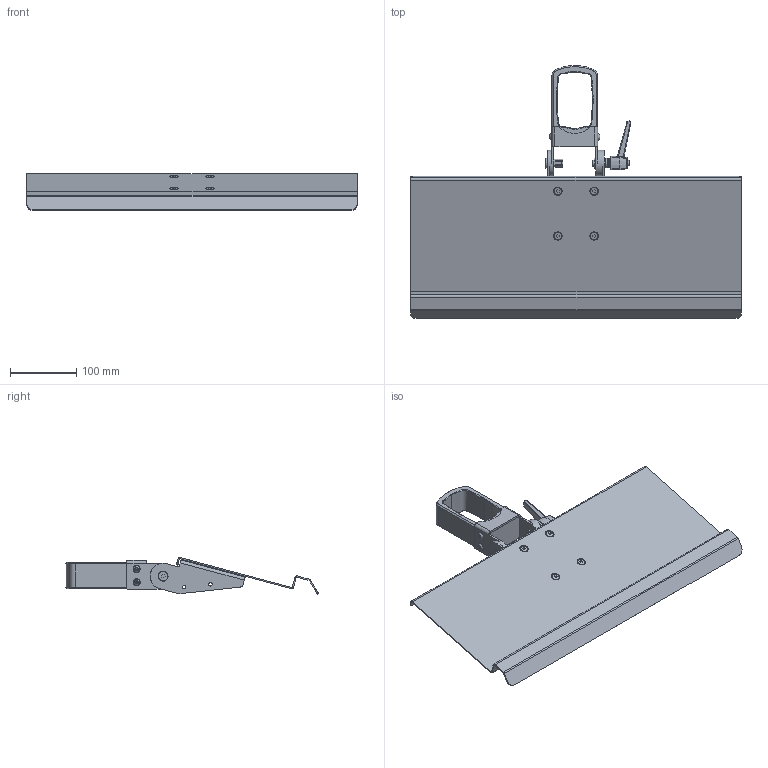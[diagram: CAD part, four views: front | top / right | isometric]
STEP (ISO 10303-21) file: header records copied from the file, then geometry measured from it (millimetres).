
FILE_DESCRIPTION (( 'STEP AP203' ), '1' );
FILE_NAME ('KLV.SC.K.1.STEP', '2024-10-18T11:05:11', ( '' ), ( '' ), 'SwSTEP 2.0', 'SolidWorks 2022', '' );
FILE_SCHEMA (( 'CONFIG_CONTROL_DESIGN' ));
Length unit declared in the file: millimetre
Products named in the file (1): KLV.SC.K.1
Bounding box: 500 x 382.29 x 55.63 mm (x, y, z)
Volume: 510659.4 mm3; surface area: 340724.9 mm2
Topology: 1 solids, 5 shells, 1626 faces, 4579 edges, 2938 vertices
Faces by surface type: plane 1163, cylinder 326, bspline 46, cone 34, sphere 30, torus 27
Full cylindrical faces by diameter (mm): 5 x4, 6.8 x2, 7.51 x1, 7.682 x1, 7.696 x1, 7.8 x3, 8 x1, 9.122 x1, 9.135 x1, 9.8 x1, 10.5 x4, 11 x4, 11.6 x4, 15 x1, 39 x2
Entity records: 60610 total; most frequent: CARTESIAN_POINT 18742, ORIENTED_EDGE 8936, DIRECTION 8488, EDGE_CURVE 4468, VECTOR 3166, LINE 3166, VERTEX_POINT 2903, AXIS2_PLACEMENT_3D 2661
